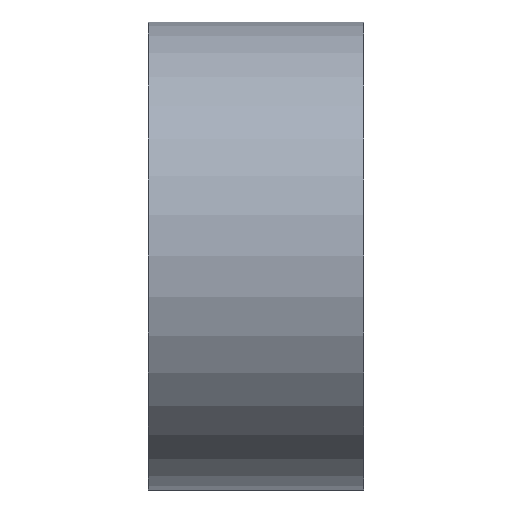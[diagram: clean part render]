
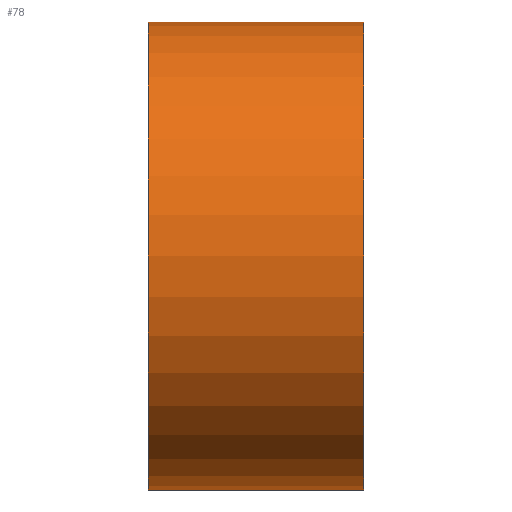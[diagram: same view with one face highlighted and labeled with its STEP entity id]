
A CAD part, left-side view. The second image highlights one B-rep face of the part: STEP entity #78.
In plain terms, the highlighted cylindrical face has radius 5 mm (diameter 10 mm), a partial arc.
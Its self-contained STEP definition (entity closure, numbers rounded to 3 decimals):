
#11 = CARTESIAN_POINT ( 'NONE',  ( 0., 4.6, 0. ) ) ;
#20 = LINE ( 'NONE', #44, #112 ) ;
#37 = CARTESIAN_POINT ( 'NONE',  ( 0., 4.6, -5. ) ) ;
#38 = FACE_OUTER_BOUND ( 'NONE', #135, .T. ) ;
#44 = CARTESIAN_POINT ( 'NONE',  ( 0., 4., 5. ) ) ;
#45 = CARTESIAN_POINT ( 'NONE',  ( 0., 0., 5. ) ) ;
#50 = EDGE_CURVE ( 'NONE', #158, #101, #429, .T. ) ;
#54 = VECTOR ( 'NONE', #255, 1000. ) ;
#70 = CARTESIAN_POINT ( 'NONE',  ( 0., 4., 0. ) ) ;
#78 = ADVANCED_FACE ( 'NONE', ( #38 ), #196, .T. ) ;
#101 = VERTEX_POINT ( 'NONE', #394 ) ;
#112 = VECTOR ( 'NONE', #475, 1000. ) ;
#123 = AXIS2_PLACEMENT_3D ( 'NONE', #411, #295, #292 ) ;
#135 = EDGE_LOOP ( 'NONE', ( #415, #449, #286, #459 ) ) ;
#139 = CIRCLE ( 'NONE', #123, 5. ) ;
#158 = VERTEX_POINT ( 'NONE', #37 ) ;
#185 = CARTESIAN_POINT ( 'NONE',  ( 0., 4., -5. ) ) ;
#196 = CYLINDRICAL_SURFACE ( 'NONE', #289, 5. ) ;
#255 = DIRECTION ( 'NONE',  ( 0., -1., 0. ) ) ;
#286 = ORIENTED_EDGE ( 'NONE', *, *, #368, .T. ) ;
#289 = AXIS2_PLACEMENT_3D ( 'NONE', #70, #392, #435 ) ;
#292 = DIRECTION ( 'NONE',  ( 0., 0., 1. ) ) ;
#295 = DIRECTION ( 'NONE',  ( 0., 1., 0. ) ) ;
#319 = EDGE_CURVE ( 'NONE', #101, #324, #20, .T. ) ;
#324 = VERTEX_POINT ( 'NONE', #45 ) ;
#360 = DIRECTION ( 'NONE',  ( 0., 0., 1. ) ) ;
#363 = CARTESIAN_POINT ( 'NONE',  ( 0., 0., -5. ) ) ;
#368 = EDGE_CURVE ( 'NONE', #158, #414, #375, .T. ) ;
#375 = LINE ( 'NONE', #185, #54 ) ;
#392 = DIRECTION ( 'NONE',  ( 0., -1., 0. ) ) ;
#393 = AXIS2_PLACEMENT_3D ( 'NONE', #11, #442, #360 ) ;
#394 = CARTESIAN_POINT ( 'NONE',  ( 0., 4.6, 5. ) ) ;
#411 = CARTESIAN_POINT ( 'NONE',  ( 0., 0., 0. ) ) ;
#414 = VERTEX_POINT ( 'NONE', #363 ) ;
#415 = ORIENTED_EDGE ( 'NONE', *, *, #319, .F. ) ;
#416 = EDGE_CURVE ( 'NONE', #414, #324, #139, .T. ) ;
#429 = CIRCLE ( 'NONE', #393, 5. ) ;
#435 = DIRECTION ( 'NONE',  ( 0., 0., -1. ) ) ;
#442 = DIRECTION ( 'NONE',  ( 0., 1., 0. ) ) ;
#449 = ORIENTED_EDGE ( 'NONE', *, *, #50, .F. ) ;
#459 = ORIENTED_EDGE ( 'NONE', *, *, #416, .T. ) ;
#475 = DIRECTION ( 'NONE',  ( 0., -1., 0. ) ) ;
